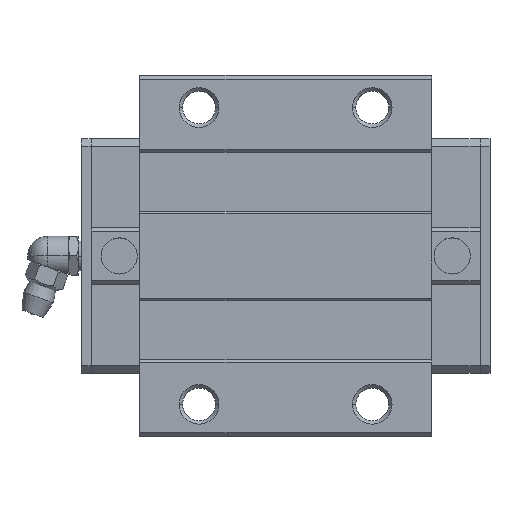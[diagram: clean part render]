
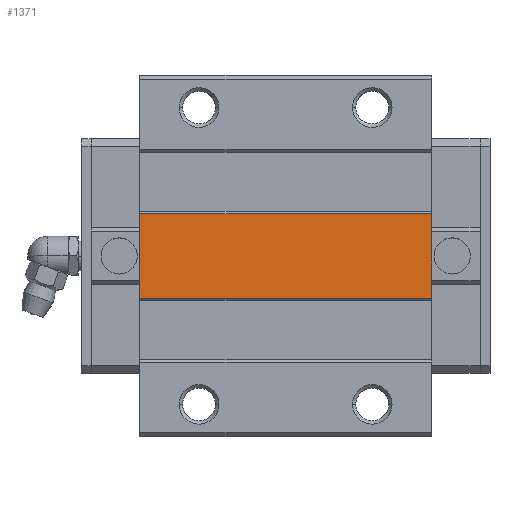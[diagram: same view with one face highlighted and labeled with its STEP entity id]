
A CAD part, top view. The second image highlights one B-rep face of the part: STEP entity #1371.
In plain terms, the highlighted planar face has unit normal (0, 0, 1).
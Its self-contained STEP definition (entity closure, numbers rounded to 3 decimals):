
#1310=CARTESIAN_POINT('POINT91',(70.8,-8.55,26.));
#1311=VERTEX_POINT('VERTEX91',#1310);
#1318=CARTESIAN_POINT('POINT92',(11.8,-8.55,26.));
#1319=VERTEX_POINT('VERTEX92',#1318);
#1320=CARTESIAN_POINT('POS144',(11.8,-8.55,26.));
#1321=DIRECTION('DIR209',(1.,0.,0.));
#1322=VECTOR('VEC79',#1321,1.);
#1323=LINE('STRAIGHT79',#1320,#1322);
#1324=EDGE_CURVE('EDGE135',#1319,#1311,#1323,.T.);
#1341=CARTESIAN_POINT('POINT93',(70.8,8.55,
   26.));
#1342=VERTEX_POINT('VERTEX93',#1341);
#1343=CARTESIAN_POINT('POS147',(70.8,8.55,26.
   ));
#1344=DIRECTION('DIR213',(0.,1.,0.));
#1345=VECTOR('VEC81',#1344,1.);
#1346=LINE('STRAIGHT81',#1343,#1345);
#1347=EDGE_CURVE('EDGE137',#1311,#1342,#1346,.T.);
#1348=ORIENTED_EDGE('COEDGE225',*,*,#1347,.T.);
#1349=CARTESIAN_POINT('POINT94',(11.8,8.55,
   26.));
#1350=VERTEX_POINT('VERTEX94',#1349);
#1351=CARTESIAN_POINT('POS148',(11.8,8.55,26.
   ));
#1352=DIRECTION('DIR214',(1.,0.,0.));
#1353=VECTOR('VEC82',#1352,1.);
#1354=LINE('STRAIGHT82',#1351,#1353);
#1355=EDGE_CURVE('EDGE138',#1350,#1342,#1354,.T.);
#1356=ORIENTED_EDGE('COEDGE226',*,*,#1355,.F.);
#1357=CARTESIAN_POINT('POS149',(11.8,0.,26.));
#1358=DIRECTION('DIR215',(0.,-1.,0.));
#1359=VECTOR('VEC83',#1358,1.);
#1360=LINE('STRAIGHT83',#1357,#1359);
#1361=EDGE_CURVE('EDGE139',#1350,#1319,#1360,.T.);
#1362=ORIENTED_EDGE('COEDGE227',*,*,#1361,.T.);
#1363=ORIENTED_EDGE('COEDGE228',*,*,#1324,.T.);
#1364=EDGE_LOOP('NONE',(#1348,#1356,#1362,#1363));
#1365=FACE_BOUND('LOOP1',#1364,.T.);
#1366=CARTESIAN_POINT('POS150',(11.8,0.,26.));
#1367=DIRECTION('DIR216',(0.,0.,1.));
#1368=DIRECTION('DIR217',(1.,0.,0.));
#1369=AXIS2_PLACEMENT_3D('AXIS67',#1366,#1367,#1368);
#1370=PLANE('PLANE21',#1369);
#1371=ADVANCED_FACE('FACE47',(#1365),#1370,.T.);
